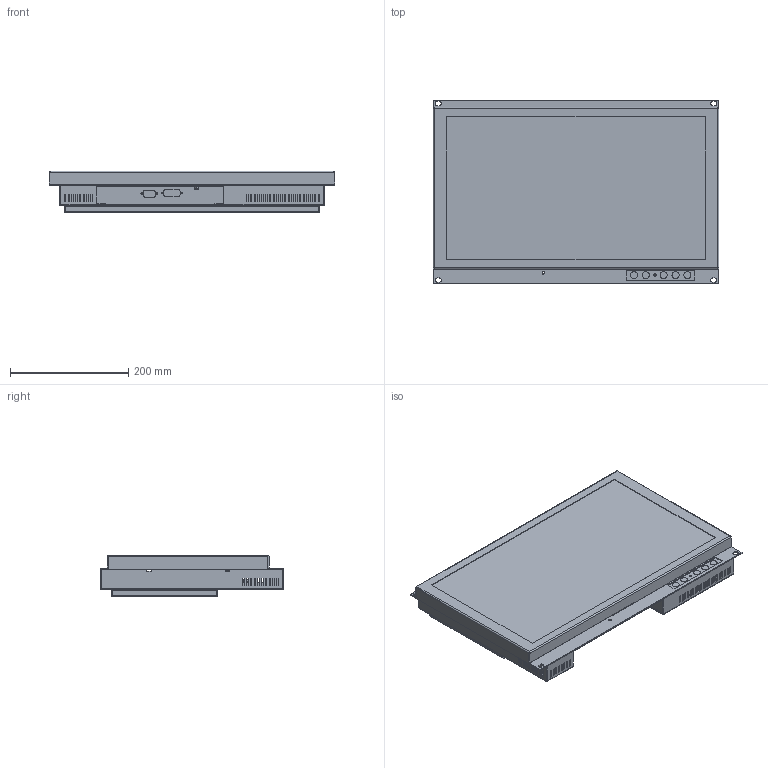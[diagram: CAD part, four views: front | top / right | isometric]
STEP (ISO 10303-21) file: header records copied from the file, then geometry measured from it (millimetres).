
FILE_DESCRIPTION (( 'STEP AP214' ), '1' );
FILE_NAME ('19.5 Rack Mount Monitor, HIS-RL19.5-xxxA.STEP', '2018-06-13T13:04:24', ( '' ), ( '' ), 'SwSTEP 2.0', 'SolidWorks 2017', '' );
FILE_SCHEMA (( 'AUTOMOTIVE_DESIGN' ));
Length unit declared in the file: millimetre
Products named in the file (13): Accessory Bracket, 10741; thru-hole standoff_pmi_PEM SO-032-16 ZI--N; self-clinching nut_pmm_PEM S-M4-2 ZI--N; Controls Label, RL19.5A; Adapter Plate, RL19.5A; thru-hole standoff_pmi_PEM SO-632-8 ZI--N; Rear Cover, RL19.5A; self-clinching nut_pmi_PEM S-632-2 ZI--N; Bezel, RL19.5A; 19.5 Rack Mount Monitor, HIS-RL19.5-xxxA
Assembly tree (29 placements, depth 3):
  19.5 Rack Mount Monitor, HIS-RL19.5-xxxA
    Bezel, RL19.5A
    Rear Cover, RL19.5A
      Rear Cover, RL19.5A
      self-clinching nut_pmi_PEM S-632-2 ZI--N  x4
    Adapter Plate, RL19.5A
      Adapter Plate, RL19.5A
      self-clinching nut_pmi_PEM S-632-2 ZI--N  x4
      thru-hole standoff_pmi_PEM SO-632-8 ZI--N
    Controls Label, RL19.5A
    Accessory Bracket, 10741
      Accessory Bracket, 10741
      self-clinching nut_pmm_PEM S-M4-2 ZI--N  x8
      thru-hole standoff_pmi_PEM SO-032-16 ZI--N  x4
Bounding box: 482.6 x 310.66 x 70.28 mm (x, y, z)
Volume: 648412 mm3; surface area: 959207 mm2
Topology: 26 solids, 26 shells, 2925 faces, 7996 edges, 5182 vertices
Faces by surface type: plane 2358, cylinder 411, cone 138, bspline 18
Entity records: 46345 total; most frequent: CARTESIAN_POINT 8700, ORIENTED_EDGE 7784, DIRECTION 7184, EDGE_CURVE 3892, VECTOR 3352, LINE 3352, VERTEX_POINT 2504, AXIS2_PLACEMENT_3D 1916
